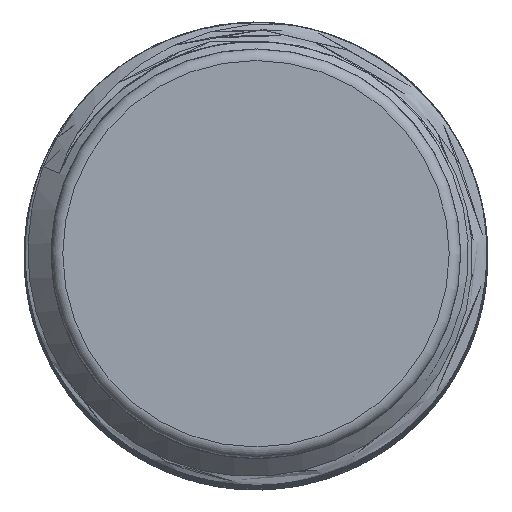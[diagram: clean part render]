
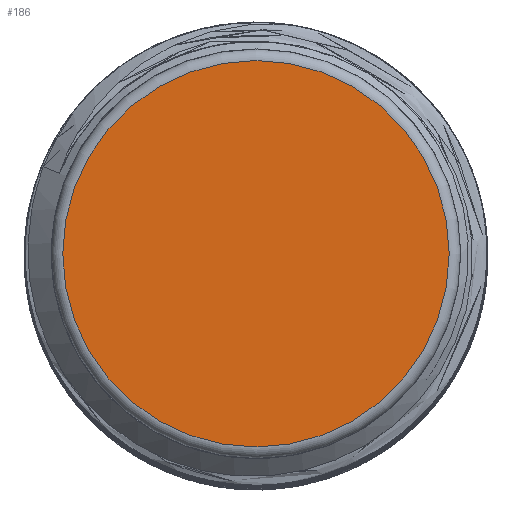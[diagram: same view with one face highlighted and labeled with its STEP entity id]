
A CAD part, top view. The second image highlights one B-rep face of the part: STEP entity #186.
In plain terms, the highlighted planar face has unit normal (0, 0, 1).
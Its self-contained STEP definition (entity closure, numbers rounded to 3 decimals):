
#110=PLANE('',#621);
#186=ADVANCED_FACE('',(#237),#110,.T.);
#237=FACE_OUTER_BOUND('',#274,.T.);
#274=EDGE_LOOP('',(#396));
#396=ORIENTED_EDGE('',*,*,#537,.T.);
#481=VERTEX_POINT('',#6913);
#537=EDGE_CURVE('',#481,#481,#577,.T.);
#577=CIRCLE('',#620,5.);
#620=AXIS2_PLACEMENT_3D('',#6912,#713,#714);
#621=AXIS2_PLACEMENT_3D('',#6914,#715,#716);
#713=DIRECTION('',(0.,0.,1.));
#714=DIRECTION('',(1.,0.,0.));
#715=DIRECTION('',(0.,0.,1.));
#716=DIRECTION('',(1.,0.,0.));
#6912=CARTESIAN_POINT('',(0.,0.,67.));
#6913=CARTESIAN_POINT('',(5.,0.,67.));
#6914=CARTESIAN_POINT('',(0.,0.,67.));
